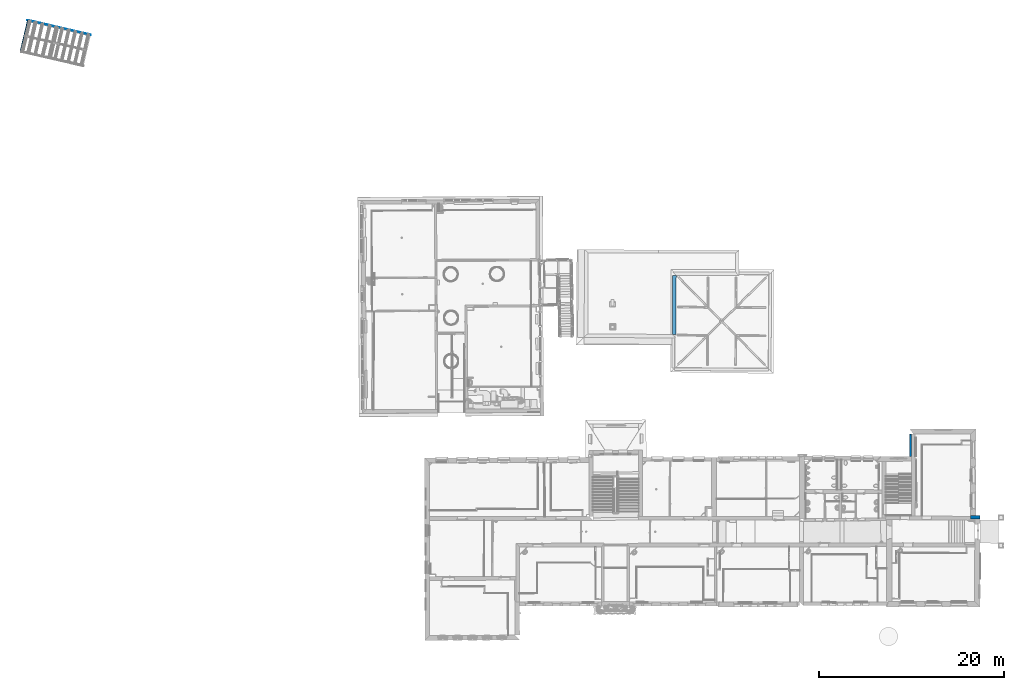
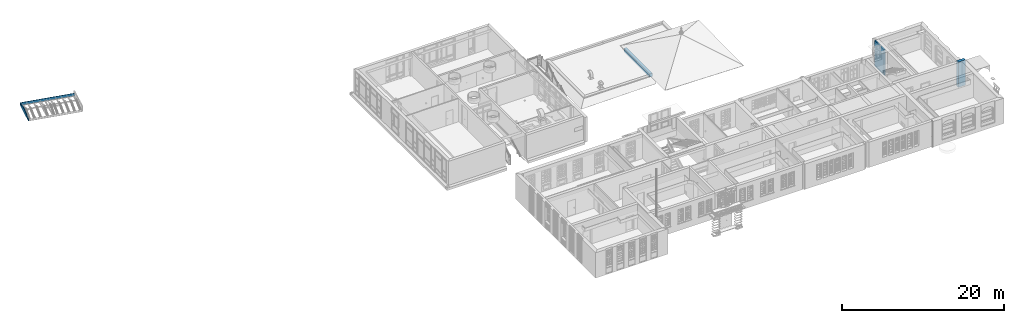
# One storey, part 87 of 158: 5 walls.
"""IFC2X3 building model written with IfcOpenShell, lengths in metres."""

import ifcopenshell
import ifcopenshell.guid

model = None  # the IFC model being written
_history = None  # IfcOwnerHistory: only IFC2X3 demands one
_inside = {}  # id of a spatial element -> (the spatial element, [elements in it])
_under = {}  # id of a project, library or spatial element -> (it, [spatial elements below it])
_declared = {}  # id of a project -> (the project, [libraries it declares])
_typed = {}  # id of a type object -> (the type object, [elements of that type])
_made_of = {}  # id of a material, layer set ... -> (it, [elements and type objects made of it])


def new_model(schema):
    """Start an empty IFC model of exactly this schema.

    Asked for "IFC4X3", IfcOpenShell would pick the latest addendum, in which some entities
    have other attributes; the version numbers below select the first issue.
    IFC2X3 requires an IfcOwnerHistory on every rooted entity: one is made here for all.
    """
    global model, _history
    if schema == "IFC4X3":
        model = ifcopenshell.file(schema_version=(4, 3, 0, 0))
    else:
        model = ifcopenshell.file(schema=schema)
    _inside.clear()
    _under.clear()
    _declared.clear()
    _typed.clear()
    _made_of.clear()
    _history = None
    if model.schema == "IFC2X3":
        org = make("IfcOrganization", Name="unknown")
        user = make(
            "IfcPersonAndOrganization",
            ThePerson=make("IfcPerson", FamilyName="unknown"),
            TheOrganization=org,
        )
        app = make(
            "IfcApplication",
            ApplicationDeveloper=org,
            Version="unknown",
            ApplicationFullName="unknown",
            ApplicationIdentifier="unknown",
        )
        _history = make(
            "IfcOwnerHistory",
            OwningUser=user,
            OwningApplication=app,
            ChangeAction="ADDED",
            CreationDate=0,
        )
    return model


def make(cls, **values):
    """One entity of the class cls with the attributes given. An attribute that is None is left unset."""
    return model.create_entity(
        cls, **{name: value for name, value in values.items() if value is not None}
    )


def entity(cls, *values):
    """Any entity or typed value of the class cls, its attributes in the order of the schema. None: left unset."""
    e = model.create_entity(cls)
    for i, value in enumerate(values):
        if value is not None:
            e[i] = value
    return e


def rooted(cls, **values):
    """An entity with a GlobalId (a new one), such as an element, a storey or a relation."""
    return make(cls, GlobalId=ifcopenshell.guid.new(), OwnerHistory=_history, **values)


def si_unit(unit_type, name, prefix=None):
    """IfcSIUnit, for example si_unit("LENGTHUNIT", "METRE", prefix="MILLI")."""
    return make("IfcSIUnit", UnitType=unit_type, Prefix=prefix, Name=name)


def converted_unit(unit_type, name, factor, base, dimensions=None, offset=None):
    """IfcConversionBasedUnit, such as the inch: factor (a typed value) times the base unit."""
    return make(
        "IfcConversionBasedUnit"
        if offset is None
        else "IfcConversionBasedUnitWithOffset",
        ConversionOffset=offset,
        Dimensions=None
        if dimensions is None
        else entity("IfcDimensionalExponents", *dimensions),
        UnitType=unit_type,
        Name=name,
        ConversionFactor=make(
            "IfcMeasureWithUnit", ValueComponent=factor, UnitComponent=base
        ),
    )


def derived_unit(unit_type, elements):
    """IfcDerivedUnit: a product of units, each with its exponent."""
    return make(
        "IfcDerivedUnit",
        Elements=[
            make("IfcDerivedUnitElement", Unit=unit, Exponent=power)
            for unit, power in elements
        ],
        UnitType=unit_type,
    )


def money_unit(currency):
    """IfcMonetaryUnit."""
    return make("IfcMonetaryUnit", Currency=currency)


def assignment(units):
    """IfcUnitAssignment: the units of a project."""
    return None if units is None else make("IfcUnitAssignment", Units=units)


def point(xyz):
    """IfcCartesianPoint."""
    return None if xyz is None else make("IfcCartesianPoint", Coordinates=xyz)


def direction(xyz):
    """IfcDirection."""
    return None if xyz is None else make("IfcDirection", DirectionRatios=xyz)


def frame(location, z_axis=None, x_axis=None):
    """IfcAxis2Placement3D, a coordinate frame: its origin and axes. An axis left out is left unset."""
    return make(
        "IfcAxis2Placement3D",
        Location=point(location),
        Axis=direction(z_axis),
        RefDirection=direction(x_axis),
    )


def origin_with_axes():
    """The frame at (0, 0, 0) with the z axis (0, 0, 1) and the x axis (1, 0, 0) written out."""
    return frame((0.0, 0.0, 0.0), z_axis=(0.0, 0.0, 1.0), x_axis=(1.0, 0.0, 0.0))


def place(relative_to, where):
    """IfcLocalPlacement: puts the frame where relative to a parent placement (None: the world)."""
    return make(
        "IfcLocalPlacement", PlacementRelTo=relative_to, RelativePlacement=where
    )


def context(
    kind, dimensions, precision=None, world=None, true_north=None, identifier=None
):
    """IfcGeometricRepresentationContext, for example the 3D "Model" context."""
    return make(
        "IfcGeometricRepresentationContext",
        ContextIdentifier=identifier,
        ContextType=kind,
        CoordinateSpaceDimension=dimensions,
        Precision=precision,
        WorldCoordinateSystem=world,
        TrueNorth=true_north,
    )


def subcontext(parent, identifier, kind, view, scale=None):
    """IfcGeometricRepresentationSubContext, for example "Body" below "Model"."""
    return make(
        "IfcGeometricRepresentationSubContext",
        ContextIdentifier=identifier,
        ContextType=kind,
        ParentContext=parent,
        TargetScale=scale,
        TargetView=view,
    )


def project(units=None, contexts=None):
    """IfcProject with its units and contexts."""
    return rooted(
        "IfcProject",
        Name="project",
        RepresentationContexts=contexts,
        UnitsInContext=assignment(units),
    )


def spatial(cls, under=None, at=None, **own):
    """A site, building, storey or space (cls), placed at a placement, below another one or the project."""
    s = rooted(cls, ObjectPlacement=at, **own)
    if under is not None:
        _under.setdefault(under.id(), (under, []))[1].append(s)
    return s


def polyline(points):
    """IfcPolyline through the points."""
    return make("IfcPolyline", Points=[point(p) for p in points])


def outline(outer, holes=None, kind="AREA"):
    """IfcArbitraryClosedProfileDef: a profile drawn as a closed curve; with holes, ...WithVoids."""
    if holes is None:
        return make("IfcArbitraryClosedProfileDef", ProfileType=kind, OuterCurve=outer)
    return make(
        "IfcArbitraryProfileDefWithVoids",
        ProfileType=kind,
        OuterCurve=outer,
        InnerCurves=holes,
    )


def extrude(swept, where, along, depth):
    """IfcExtrudedAreaSolid: the profile swept, set in the frame where, extruded along a direction by depth."""
    return make(
        "IfcExtrudedAreaSolid",
        SweptArea=swept,
        Position=where,
        ExtrudedDirection=direction(along),
        Depth=depth,
    )


def boolean(op, a, b):
    """IfcBooleanResult of two solids."""
    return make("IfcBooleanResult", Operator=op, FirstOperand=a, SecondOperand=b)


def faces_of(points, faces, orient=None, outer=None):
    """IfcFace entities. A face is a list of loops; a loop is a list of indices into points, from 0.

    orient and outer hold one flag for each loop. By default every Orientation is true, the
    first loop of a face is its IfcFaceOuterBound and the others are IfcFaceBound.
    """
    made = []
    for i, loops in enumerate(faces):
        bounds = []
        for j, loop in enumerate(loops):
            is_outer = j == 0 if outer is None else outer[i][j]
            bounds.append(
                make(
                    "IfcFaceOuterBound" if is_outer else "IfcFaceBound",
                    Bound=make("IfcPolyLoop", Polygon=[points[k] for k in loop]),
                    Orientation=True if orient is None else orient[i][j],
                )
            )
        made.append(make("IfcFace", Bounds=bounds))
    return made


def faceted_brep(points, faces, orient=None, outer=None, voids=None):
    """IfcFacetedBrep: a solid bounded by flat faces; with voids (closed shells), ...WithVoids."""
    shared = [point(p) for p in points]
    hull = make("IfcClosedShell", CfsFaces=faces_of(shared, faces, orient, outer))
    if voids is None:
        return make("IfcFacetedBrep", Outer=hull)
    return make(
        "IfcFacetedBrepWithVoids",
        Outer=hull,
        Voids=[
            make(cls, CfsFaces=faces_of(shared, fs, o, b)) for cls, fs, o, b in voids
        ],
    )


def shape(context_of_items, identifier, shape_type, items):
    """IfcShapeRepresentation: the items that make up one representation, for example the "Body"."""
    return make(
        "IfcShapeRepresentation",
        ContextOfItems=context_of_items,
        RepresentationIdentifier=identifier,
        RepresentationType=shape_type,
        Items=items,
    )


def material(Name=None, Category=None):
    """IfcMaterial."""
    return make("IfcMaterial", Name=Name, Category=Category)


def made_of(thing, what):
    """Note that an element or type object is made of a material, layer set ...; save() writes the relation."""
    if what is not None:
        _made_of.setdefault(what.id(), (what, []))[1].append(thing)
    return thing


def type_object(cls, material=None, **own):
    """A type object (cls), such as IfcWallType, which elements share."""
    return made_of(rooted(cls, **own), material)


def element(
    cls,
    number,
    at=None,
    inside=None,
    cuts=None,
    type_object=None,
    material=None,
    context=None,
    identifier="Body",
    shape_type=None,
    held_by="IfcProductDefinitionShape",
    body=None,
    shapes=None,
    **own,
):
    """One element of the class cls, such as IfcWall. Its Tag is "e" and its number.

    at: its placement. inside: the storey or other place that contains it. cuts: it is an
    opening in that element (IfcRelVoidsElement). A single representation is given by context,
    identifier, shape_type and body (its items); several are given by shapes. held_by: the class
    of the entity that holds the representations. save() writes the other relations.
    """
    e = rooted(cls, Tag="e%d" % number, ObjectPlacement=at, **own)
    if body is not None:
        shapes = [shape(context, identifier, shape_type, body)]
    if shapes is not None:
        e.Representation = make(held_by, Representations=shapes)
    if inside is not None:
        _inside.setdefault(inside.id(), (inside, []))[1].append(e)
    if cuts is not None:
        rooted(
            "IfcRelVoidsElement", RelatingBuildingElement=cuts, RelatedOpeningElement=e
        )
    if type_object is not None:
        _typed.setdefault(type_object.id(), (type_object, []))[1].append(e)
    return made_of(e, material)


def aggregate(whole, parts):
    """IfcRelAggregates: a whole, such as a stair, and the parts it consists of."""
    return rooted("IfcRelAggregates", RelatingObject=whole, RelatedObjects=parts)


def save(model, path):
    """Write the relations noted so far, then the file.

    IfcRelAggregates (storeys below a building ...), IfcRelContainedInSpatialStructure (elements
    in a storey), IfcRelDefinesByType, IfcRelAssociatesMaterial and IfcRelDeclares: one each for
    every whole, place, type object, material and project.
    """
    for whole, parts in _under.values():
        aggregate(whole, parts)
    for where, things in _inside.values():
        rooted(
            "IfcRelContainedInSpatialStructure",
            RelatedElements=things,
            RelatingStructure=where,
        )
    for kind, things in _typed.values():
        rooted("IfcRelDefinesByType", RelatedObjects=things, RelatingType=kind)
    for what, things in _made_of.values():
        rooted("IfcRelAssociatesMaterial", RelatedObjects=things, RelatingMaterial=what)
    for by, libraries in _declared.values():
        rooted("IfcRelDeclares", RelatingContext=by, RelatedDefinitions=libraries)
    model.write(path)


model = new_model("IFC2X3")

# Units and contexts
model_context = context("Model", 3, precision=1e-05, world=origin_with_axes(), true_north=direction((0.0, 1.0)))
body_context = subcontext(model_context, "Body", "Model", "MODEL_VIEW")
ifc_project = project(units=[si_unit("LENGTHUNIT", "METRE"), si_unit("AREAUNIT", "SQUARE_METRE"), si_unit("VOLUMEUNIT", "CUBIC_METRE"), converted_unit("PLANEANGLEUNIT", "DEGREE", entity("IfcPlaneAngleMeasure", 0.0174532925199), si_unit("PLANEANGLEUNIT", "RADIAN"), dimensions=[0, 0, 0, 0, 0, 0, 0]), money_unit("EUR"), converted_unit("TIMEUNIT", "Year", entity("IfcTimeMeasure", 31556926.0), si_unit("TIMEUNIT", "SECOND"), dimensions=[0, 0, 1, 0, 0, 0, 0]), si_unit("MASSUNIT", "GRAM", prefix="KILO"), si_unit("THERMODYNAMICTEMPERATUREUNIT", "DEGREE_CELSIUS"), si_unit("LUMINOUSINTENSITYUNIT", "LUMEN"), si_unit("ENERGYUNIT", "JOULE", prefix="MEGA"), derived_unit("THERMALCONDUCTANCEUNIT", [(si_unit("POWERUNIT", "WATT"), 1), (si_unit("LENGTHUNIT", "METRE"), -1), (si_unit("THERMODYNAMICTEMPERATUREUNIT", "KELVIN"), -1)]), derived_unit("SPECIFICHEATCAPACITYUNIT", [(si_unit("ENERGYUNIT", "JOULE"), 1), (si_unit("MASSUNIT", "GRAM", prefix="KILO"), -1), (si_unit("THERMODYNAMICTEMPERATUREUNIT", "KELVIN"), -1)]), derived_unit("MASSDENSITYUNIT", [(si_unit("MASSUNIT", "GRAM", prefix="KILO"), 1), (si_unit("VOLUMEUNIT", "CUBIC_METRE"), -1)])], contexts=[model_context])

# Site, building, storey
site_placement = place(None, origin_with_axes())
site = spatial("IfcSite", under=ifc_project, at=site_placement, Name="Gelände", CompositionType="ELEMENT")
building_placement = place(site_placement, origin_with_axes())
building = spatial("IfcBuilding", under=site, at=building_placement, Name="Gebäude", CompositionType="ELEMENT")
storey_placement = place(building_placement, origin_with_axes())
storey = spatial("IfcBuildingStorey", under=building, at=storey_placement, Name="ERDGESCHOSS", CompositionType="ELEMENT", Elevation=0.0)

# Walls
ifc_material = material(Name="05_ALLGEMEIN - TRAGENDE BAUTEILE")
wall_type_1 = type_object("IfcWallType", Name="05_ALLGEMEIN - TRAGENDE BAUTEILE 400", PredefinedType="ELEMENTEDWALL")
wall_1_placement = place(storey_placement, frame((24.4999032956, 29.1629939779, -0.210000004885), z_axis=(0.0, 0.0, 1.0), x_axis=(-0.00729687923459, -0.999973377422, 0.0)))
element("IfcWall", 1, at=wall_1_placement, inside=storey, type_object=wall_type_1, material=ifc_material, Name="Wand-030", ObjectType="ELEMENTEDWALL", context=body_context, shape_type="CSG", body=[
    boolean("DIFFERENCE", extrude(outline(polyline([(-0.00321462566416, 0.0), (3.49754577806, 0.0), (3.49754577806, 0.4), (-0.00321462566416, 0.4), (-0.00321462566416, 0.0)])), origin_with_axes(), (0.0, 0.0, 1.0), 3.81000000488), faceted_brep([(2.97502572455, 0.19462352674, 3.81000000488), (2.97750363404, 0.0, 3.81000000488), (3.49754577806, 0.0, 3.81000000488), (3.49754577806, 0.4, 3.81000000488), (-0.00321462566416, 0.4, 3.81000000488), (-0.00321462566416, 0.0, 3.81000000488), (0.56001808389, 0.0, 3.81000000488), (0.558592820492, 0.177347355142, 3.81000000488), (2.97502572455, 0.19462352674, 0.0), (2.97750363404, 0.0, 0.0), (3.49754577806, 0.0, 0.0), (3.49754577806, 0.4, 0.0), (-0.00321462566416, 0.4, 0.0), (-0.00321462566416, 0.0, 0.0), (0.56001808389, 0.0, 0.0), (0.558592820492, 0.177347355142, 0.0)], [[[0, 1, 2, 3, 4, 5, 6, 7]], [[1, 0, 8, 9]], [[1, 9, 10, 2]], [[2, 10, 11, 3]], [[3, 11, 12, 4]], [[4, 12, 13, 5]], [[14, 6, 5, 13]], [[7, 6, 14, 15]], [[0, 7, 15, 8]], [[15, 14, 13, 12, 11, 10, 9, 8]]])),
])
wall_2_placement = place(storey_placement, frame((32.1207494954, 19.80428634, -0.21), z_axis=(0.0, 0.0, 1.0), x_axis=(-0.999985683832, -0.00535089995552, 0.0)))
element("IfcWall", 2, at=wall_2_placement, inside=storey, type_object=wall_type_1, material=ifc_material, Name="Wand-038", ObjectType="ELEMENTEDWALL", context=body_context, shape_type="CSG", body=[
    boolean("DIFFERENCE", extrude(outline(polyline([(0.0, 0.0), (1.02566973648, 0.0), (1.02566973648, 0.4), (0.0, 0.4), (0.0, 0.0)])), frame((0.0, 0.0, -4.88479678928e-09), z_axis=(0.0, 0.0, 1.0), x_axis=(1.0, 0.0, 0.0)), (0.0, 0.0, 1.0), 3.81000000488), faceted_brep([(0.0, 0.4, 3.81), (0.0, 0.0, 3.81), (1.02566973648, 0.0, 3.81), (1.02566973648, 0.4, 3.81), (0.580742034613, 0.119600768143, 3.81), (0.616954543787, 0.119102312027, 3.81), (0.580586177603, 0.094107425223, 3.81), (0.0, 0.0, 0.0), (0.0, 0.0, 1.97208266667), (0.0, 0.4, -4.88479678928e-09), (0.443656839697, 0.0, 1.97208266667), (0.443656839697, 0.0, -4.88479656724e-09), (1.02566973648, 0.0, -4.88479678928e-09), (1.02566973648, 0.4, -4.88479678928e-09), (0.582456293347, 0.4, -4.88479678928e-09), (0.580742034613, 0.119600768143, 1.97208266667), (0.580742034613, 0.119600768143, -4.88479678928e-09), (0.616954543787, 0.119102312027, -4.88479678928e-09), (0.580586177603, 0.094107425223, 1.97208266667), (0.582456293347, 0.4, 1.97208266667)], [[[0, 1, 2, 3], [4, 5, 6]], [[7, 8, 1, 0, 9]], [[10, 11, 12, 2, 1, 8]], [[2, 12, 13, 3]], [[3, 13, 14, 9, 0]], [[5, 4, 15, 16, 17]], [[11, 10, 18, 6, 5, 17]], [[4, 6, 18, 15]], [[8, 7, 14, 19]], [[14, 7, 9]], [[16, 14, 13, 12, 11, 17]], [[10, 8, 19, 15, 18]], [[14, 16, 15, 19]]])),
])
wall_type_2 = type_object("IfcWallType", Name="05_ALLGEMEIN - TRAGENDE BAUTEILE 127", PredefinedType="ELEMENTEDWALL")
wall_3_placement = place(storey_placement, frame((-71.0998156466, 73.4750013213, 0.1099946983), z_axis=(0.0, 0.0, 1.0), x_axis=(-0.230982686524, -0.972957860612, 0.0)))
element("IfcWall", 3, at=wall_3_placement, inside=storey, type_object=wall_type_2, material=ifc_material, Name="Wand-028", ObjectType="ELEMENTEDWALL", context=body_context, shape_type="CSG", body=[
    boolean("DIFFERENCE", boolean("DIFFERENCE", boolean("DIFFERENCE", extrude(outline(polyline([(-0.000818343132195, 0.0), (3.54058206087, 0.0), (3.54058206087, 0.12696716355), (-0.00081834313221, 0.12696716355), (-0.000818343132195, 0.0)])), origin_with_axes(), (0.0, 0.0, 1.0), 0.821071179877), faceted_brep([(3.50543488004, 0.12696716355, 0.00018095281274), (3.44941226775, 0.12696716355, 0.000178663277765), (3.44941226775, 0.12696716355, 0.0983529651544), (3.50543488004, 0.12696716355, 0.0983552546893), (3.44941867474, 0.126368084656, 0.00018095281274), (3.44941867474, 0.126368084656, 0.0983552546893)], [[[0, 1, 2, 3]], [[1, 0, 4]], [[2, 1, 4, 5]], [[3, 2, 5]], [[0, 3, 5, 4]]])), faceted_brep([(0.0929627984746, 0.12696716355, 0.0734449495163), (0.0929627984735, 0.12696716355, 0.0), (0.0276671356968, 0.12696716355, 0.0), (0.0276671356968, 0.12696716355, 0.073444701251), (0.0276681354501, 0.126711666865, 0.0), (0.0276681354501, 0.126711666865, 0.0734449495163)], [[[0, 1, 2, 3]], [[4, 1, 0, 5]], [[4, 2, 1]], [[3, 2, 4, 5]], [[0, 3, 5]]])), faceted_brep([(3.53971122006, 0.12696716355, 0.25866241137), (1.78681061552, 0.126967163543, 0.664811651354), (-0.000818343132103, 0.12696716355, 0.248065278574), (-0.00081834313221, 0.12696716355, 0.821071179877), (3.54058206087, 0.12696716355, 0.821071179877), (3.54058206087, 0.12696716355, 0.0), (3.53971122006, 0.12696716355, 0.0), (3.54058206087, 0.0, 0.258788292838), (1.78791411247, 0.0, 0.664883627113), (0.0, 0.0, 0.248070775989), (-0.000818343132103, 0.12696716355, 0.0), (-0.000818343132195, 0.0, 0.0), (-0.000818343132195, 0.0, 0.821071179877), (3.54058206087, 0.0, 0.821071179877), (3.54058206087, 0.0, 0.0), (0.0, 0.0, 0.0)], [[[0, 1, 2, 3, 4, 5, 6]], [[1, 0, 7, 8]], [[2, 1, 8, 9]], [[2, 10, 11, 12, 3]], [[3, 12, 13, 4]], [[7, 14, 5, 4, 13]], [[14, 6, 5]], [[0, 6, 14, 7]], [[8, 7, 13, 12, 11, 15, 9]], [[10, 2, 9, 15]], [[10, 15, 11]]])),
])
wall_type_3 = type_object("IfcWallType", Name="05_ALLGEMEIN - TRAGENDE BAUTEILE 50", PredefinedType="ELEMENTEDWALL")
wall_4_placement = place(storey_placement, frame((-71.0998156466, 73.4750013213, 0.1099946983), z_axis=(0.0, 0.0, 1.0), x_axis=(0.974426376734, -0.224707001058, 0.0)))
element("IfcWall", 4, at=wall_4_placement, inside=storey, type_object=wall_type_3, material=ifc_material, Name="Wand-028", ObjectType="ELEMENTEDWALL", context=body_context, shape_type="CSG", body=[
    boolean("DIFFERENCE", extrude(outline(polyline([(-0.000322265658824, -0.05), (7.04438786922, -0.05), (7.04438786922, 0.0), (-0.000322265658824, 0.0), (-0.000322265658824, -0.05)])), origin_with_axes(), (0.0, 0.0, 1.0), 0.402770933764), faceted_brep([(-0.000322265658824, -0.05, 0.402770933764), (-0.000322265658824, -0.05, 0.0), (7.04438786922, -0.05, 0.0), (7.04438786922, -0.05, 0.402770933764), (0.126647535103, -0.05, 0.0734447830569), (0.126647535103, -0.05, 0.259721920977), (6.91214340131, -0.05, 0.259428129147), (6.91214340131, -0.05, 0.0668514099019), (6.88601630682, -0.05, 0.0668767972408), (6.88601630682, -0.05, 0.175682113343), (6.78601629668, -0.05, 0.175682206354), (6.78601629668, -0.05, 0.0669739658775), (6.16936007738, -0.05, 0.0675731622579), (6.16936007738, -0.05, 0.175585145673), (6.06935870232, -0.05, 0.175586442), (6.06935870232, -0.05, 0.0676703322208), (5.4355583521, -0.05, 0.0682861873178), (5.4355583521, -0.05, 0.174260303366), (5.33555781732, -0.05, 0.174261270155), (5.33555781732, -0.05, 0.0683833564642), (4.70755625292, -0.05, 0.0689935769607), (4.70755625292, -0.05, 0.177074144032), (4.60755473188, -0.05, 0.177076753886), (4.60755473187, -0.05, 0.0690907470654), (3.96743696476, -0.05, 0.0697127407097), (3.96743696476, -0.05, 0.17538621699), (3.86743627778, -0.05, 0.175387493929), (3.86743627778, -0.05, 0.069809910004), (3.25152584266, -0.05, 0.0704083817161), (3.25152584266, -0.05, 0.179437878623), (3.1515220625, -0.05, 0.1794382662), (3.15152206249, -0.05, 0.0705055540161), (2.49942631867, -0.05, 0.0711391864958), (2.49942631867, -0.05, 0.175360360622), (2.39942563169, -0.05, 0.175361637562), (2.39942563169, -0.05, 0.0712363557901), (1.76542099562, -0.05, 0.0718524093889), (1.76542099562, -0.05, 0.175347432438), (1.66542030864, -0.05, 0.175348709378), (1.66542030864, -0.05, 0.0719495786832), (1.03141567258, -0.05, 0.0725656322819), (1.03141567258, -0.05, 0.175334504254), (0.931414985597, -0.05, 0.175335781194), (0.931414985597, -0.05, 0.0726628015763), (0.378631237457, -0.05, 0.0731999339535), (0.378631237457, -0.05, 0.165699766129), (0.278627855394, -0.05, 0.16570564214), (0.278627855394, -0.05, 0.0732971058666), (-0.000322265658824, 0.0, 0.402770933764), (-0.000322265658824, 0.0, 0.0), (6.91215467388, -0.04566688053, 0.0), (6.9122734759, 0.0, 0.0), (7.04438786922, 0.0, 0.0), (0.126969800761, 0.0, 0.0), (0.126786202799, -0.0284854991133, 0.0), (7.04438786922, 0.0, 0.402770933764), (0.126969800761, 0.0, 0.248065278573), (0.126786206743, -0.0284848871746, 0.073444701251), (6.9122734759, 0.0, 0.247771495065), (6.91215467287, -0.0456672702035, 0.0668514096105), (6.88601828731, -0.045601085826, 0.0668768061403), (6.88601828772, -0.0456001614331, 0.0556727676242), (6.88601833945, -0.045485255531, 0.0556725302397), (6.88601833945, -0.045485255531, 0.175672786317), (6.78601834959, -0.0454402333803, 0.175672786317), (6.78601834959, -0.0454402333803, 0.0669739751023), (6.83038541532, -0.0454602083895, 0.0669308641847), (6.11532692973, -0.0436494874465, 0.0676256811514), (6.16939189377, -0.0439330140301, 0.0675731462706), (6.16939189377, -0.0439330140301, 0.175570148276), (6.06939326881, -0.0434086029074, 0.175570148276), (6.06939326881, -0.0434086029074, 0.0555697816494), (6.06939261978, -0.0435323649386, 0.0555700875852), (6.06939261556, -0.0435331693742, 0.0676703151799), (4.63181417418, -0.0398929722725, 0.0690671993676), (4.70760969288, -0.0403110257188, 0.0689935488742), (5.33558496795, -0.0416981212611, 0.0683833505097), (5.43558443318, -0.0420251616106, 0.0682861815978), (5.43558443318, -0.0420251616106, 0.17423672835), (5.33558496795, -0.0416981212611, 0.17423672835), (4.70760969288, -0.0403110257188, 0.17702829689), (4.6076112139, -0.0397594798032, 0.17702829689), (4.6076112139, -0.0397594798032, 0.0570269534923), (4.60761081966, -0.0398309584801, 0.0570272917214), (4.60761081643, -0.0398315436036, 0.0690907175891), (3.95744168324, -0.0381853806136, 0.0697224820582), (3.96748062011, -0.0382225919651, 0.0697127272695), (3.96748062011, -0.0382225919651, 0.175345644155), (3.86748130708, -0.0378519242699, 0.175345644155), (3.86748130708, -0.0378519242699, 0.0553449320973), (3.86748091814, -0.0379568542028, 0.0553452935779), (3.86748091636, -0.0379573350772, 0.0698098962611), (3.25164411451, -0.0363978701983, 0.070408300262), (3.2516441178, -0.0363974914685, 0.0594318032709), (3.251645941, -0.0361878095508, 0.0594317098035), (3.251645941, -0.0361878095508, 0.179431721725), (3.15164972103, -0.0353183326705, 0.179431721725), (3.15164972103, -0.0353183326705, 0.0594317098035), (3.15164253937, -0.0361442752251, 0.0594320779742), (3.15164253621, -0.0361446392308, 0.0705054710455), (2.49035301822, -0.0344700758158, 0.0711480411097), (2.49948375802, -0.034503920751, 0.071139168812), (2.49948375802, -0.034503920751, 0.175306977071), (2.399484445, -0.0341332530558, 0.175306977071), (2.399484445, -0.0341332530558, 0.0553062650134), (2.39948405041, -0.0342397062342, 0.0553066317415), (2.39948404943, -0.0342399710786, 0.0712363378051), (1.76548536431, -0.032634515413, 0.0718523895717), (1.76548536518, -0.0326342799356, 0.175287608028), (1.66548605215, -0.0322636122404, 0.175287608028), (1.66548605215, -0.0322636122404, 0.0552868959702), (1.66548561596, -0.0323812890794, 0.0552873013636), (1.66548561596, -0.0323812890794, 0.0719495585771), (1.03148690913, -0.0307816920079, 0.0725656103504), (1.03148690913, -0.0307816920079, 0.175268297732), (0.931487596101, -0.0304110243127, 0.175268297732), (0.931487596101, -0.0304110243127, 0.0552675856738), (0.931487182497, -0.0305226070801, 0.0552679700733), (0.931487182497, -0.0305226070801, 0.072662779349), (0.344233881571, -0.0290363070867, 0.0732334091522), (0.378801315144, -0.0293206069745, 0.0731998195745), (0.378801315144, -0.0293206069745, 0.165552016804), (0.278804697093, -0.0284981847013, 0.165552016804), (0.278804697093, -0.0284981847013, 0.0455489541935), (0.278801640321, -0.0288698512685, 0.0455516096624), (0.278801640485, -0.0288698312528, 0.0732969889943), (0.344098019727, -0.0290351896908, 0.0455489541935), (0.344096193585, -0.0290351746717, 0.0732335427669), (1.02649841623, -0.0307632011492, 0.0552675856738), (1.03148690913, -0.0307816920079, 0.0552675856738), (1.76548536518, -0.0326342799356, 0.0552868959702), (2.49011614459, -0.0344691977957, 0.0553062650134), (3.95681615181, -0.0381830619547, 0.0553449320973), (3.95723680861, -0.0381846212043, 0.0697226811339), (4.63157018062, -0.0398916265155, 0.0570269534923), (4.63176750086, -0.0398927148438, 0.06906724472), (6.11502781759, -0.0436479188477, 0.0555697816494), (6.83082549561, -0.0454604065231, 0.0556725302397)], [[[0, 1, 2, 3], [4, 5, 6, 7, 8, 9, 10, 11, 12, 13, 14, 15, 16, 17, 18, 19, 20, 21, 22, 23, 24, 25, 26, 27, 28, 29, 30, 31, 32, 33, 34, 35, 36, 37, 38, 39, 40, 41, 42, 43, 44, 45, 46, 47]], [[48, 49, 1, 0]], [[50, 51, 52, 2, 1, 49, 53, 54]], [[3, 2, 52, 55]], [[48, 0, 3, 55]], [[53, 56, 5, 4, 57, 54]], [[56, 58, 6, 5]], [[58, 51, 50, 59, 7, 6]], [[8, 7, 59, 60]], [[9, 8, 60, 61, 62, 63]], [[10, 9, 63, 64]], [[11, 10, 64, 65]], [[12, 11, 65, 66, 67, 68]], [[13, 12, 68, 69]], [[14, 13, 69, 70]], [[15, 14, 70, 71, 72, 73]], [[16, 15, 73, 74, 75, 20, 19, 76, 77]], [[17, 16, 77, 78]], [[18, 17, 78, 79]], [[19, 18, 79, 76]], [[21, 20, 75, 80]], [[22, 21, 80, 81]], [[23, 22, 81, 82, 83, 84]], [[24, 23, 84, 85, 86]], [[25, 24, 86, 87]], [[26, 25, 87, 88]], [[27, 26, 88, 89, 90, 91]], [[28, 27, 91, 92]], [[29, 28, 92, 93, 94, 95]], [[30, 29, 95, 96]], [[31, 30, 96, 97, 98, 99]], [[32, 31, 99, 100, 101]], [[33, 32, 101, 102]], [[34, 33, 102, 103]], [[35, 34, 103, 104, 105, 106]], [[36, 35, 106, 107]], [[37, 36, 107, 108]], [[38, 37, 108, 109]], [[39, 38, 109, 110, 111, 112]], [[40, 39, 112, 113]], [[41, 40, 113, 114]], [[42, 41, 114, 115]], [[43, 42, 115, 116, 117, 118]], [[44, 43, 118, 119, 120]], [[45, 44, 120, 121]], [[46, 45, 121, 122]], [[47, 46, 122, 123, 124, 125]], [[4, 47, 125, 57]], [[56, 53, 49, 48, 55, 52, 51, 58]], [[50, 54, 57, 125, 124, 126, 127, 119, 118, 117, 128, 129, 113, 112, 111, 130, 107, 106, 105, 131, 100, 99, 98, 93, 92, 91, 90, 132, 133, 85, 84, 83, 134, 135, 74, 73, 72, 136, 67, 66, 137, 61, 60, 59]], [[61, 137, 62]], [[65, 64, 63, 62, 137, 66]], [[70, 69, 68, 67, 136, 71]], [[72, 71, 136]], [[80, 75, 74, 135, 134, 82, 81]], [[79, 78, 77, 76]], [[83, 82, 134]], [[88, 87, 86, 85, 133, 132, 89]], [[90, 89, 132]], [[93, 98, 97, 94]], [[95, 94, 97, 96]], [[103, 102, 101, 100, 131, 104]], [[131, 105, 104]], [[108, 107, 130, 110, 109]], [[110, 130, 111]], [[114, 113, 129, 128, 116, 115]], [[117, 116, 128]], [[121, 120, 119, 127, 126, 123, 122]], [[124, 123, 126]]])),
])
wall_type_4 = type_object("IfcWallType", Name="05_ALLGEMEIN - TRAGENDE BAUTEILE 390", PredefinedType="ELEMENTEDWALL")
wall_5_placement = place(storey_placement, frame((-0.806098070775, 45.7710094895, 0.5), z_axis=(0.0, 0.0, 1.0), x_axis=(-0.005851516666, -0.99998287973, 0.0)))
element("IfcWall", 5, at=wall_5_placement, inside=storey, type_object=wall_type_4, material=ifc_material, Name="Wand-030", ObjectType="ELEMENTEDWALL", context=body_context, shape_type="CSG", body=[
    boolean("DIFFERENCE", extrude(outline(polyline([(-0.418008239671, -0.39), (6.76392477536, -0.39), (6.76392477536, 0.0), (-0.418008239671, 0.0), (-0.418008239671, -0.39)])), origin_with_axes(), (0.0, 0.0, 1.0), 0.496227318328), faceted_brep([(0.00244877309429, -0.39, 0.496227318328), (0.0, 0.0, 0.496227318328), (-0.418008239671, 0.0, 0.496227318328), (-0.418008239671, -0.39, 0.496227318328), (0.0, 0.0, 0.472467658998), (0.00244877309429, -0.39, 0.0), (0.0, 0.0, 0.0), (0.0, 0.0, 0.426284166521), (0.000668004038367, -0.106388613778, 0.36488479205), (0.000668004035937, -0.106388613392, 0.411068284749), (-0.418008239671, 0.0, 0.0), (6.33392361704, -3.93113259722e-08, 0.472699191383), (6.33392361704, -3.93113259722e-08, 0.496227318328), (6.76392477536, 0.0, 0.496227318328), (6.76392477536, 0.0, 0.0), (6.37392366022, 0.0, 0.0), (6.37392366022, 0.0, 0.36), (6.33392361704, -3.93113259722e-08, 0.36), (6.33392361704, -3.93113259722e-08, 0.426515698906), (-0.418008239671, -0.39, 0.0), (6.33392348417, -2.91460592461e-05, 0.426498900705), (6.37392336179, -0.000124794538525, 0.426445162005), (6.37368483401, -0.099869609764, 0.368880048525), (6.37368483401, -0.0998696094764, 0.415063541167), (6.37392336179, -0.000124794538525, 0.472628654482), (6.33392348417, -2.91460592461e-05, 0.472682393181), (6.33392348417, -2.91460592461e-05, 0.496227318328), (6.37392336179, -0.000124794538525, 0.496227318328), (6.37299102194, -0.39, 0.496227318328), (6.76392477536, -0.39, 0.496227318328), (6.76392477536, -0.39, 0.0), (6.37299102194, -0.39, 0.0), (6.37392336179, -0.000124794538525, 0.36), (6.33392348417, -2.91460592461e-05, 0.36)], [[[0, 1, 2, 3]], [[4, 1, 0, 5, 6, 7, 8, 9]], [[7, 6, 10, 2, 1, 4, 11, 12, 13, 14, 15, 16, 17, 18]], [[2, 10, 19, 3]], [[5, 0, 3, 19]], [[6, 5, 19, 10]], [[7, 18, 20, 21, 22, 8]], [[8, 22, 23, 9]], [[11, 4, 9, 23, 24, 25]], [[26, 12, 11, 25]], [[27, 28, 29, 13, 12, 26]], [[29, 30, 14, 13]], [[31, 15, 14, 30]], [[16, 15, 31, 28, 27, 24, 23, 22, 21, 32]], [[17, 16, 32, 33]], [[18, 17, 33, 20]], [[20, 33, 32, 21]], [[27, 26, 25, 24]], [[28, 31, 30, 29]]])),
])

save(model, "model.ifc")
